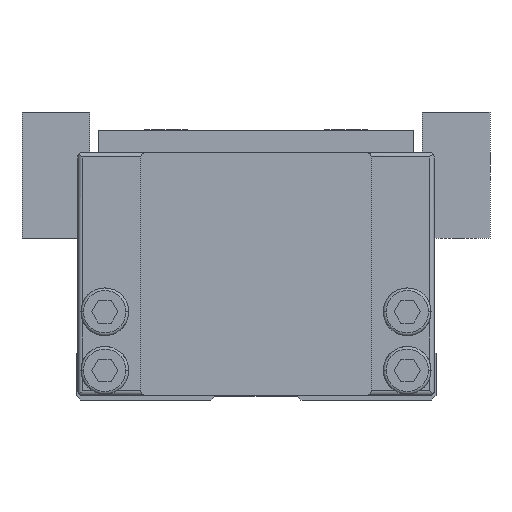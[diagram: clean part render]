
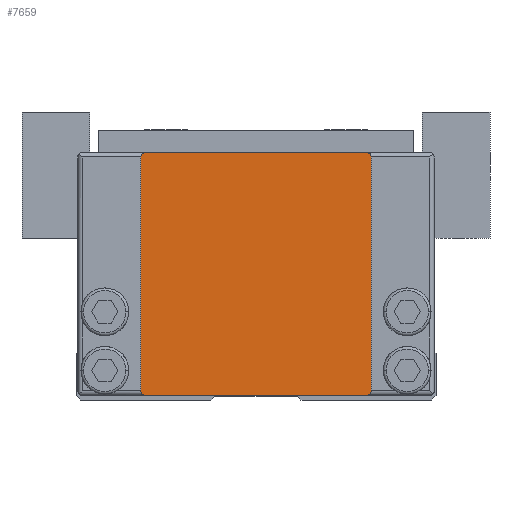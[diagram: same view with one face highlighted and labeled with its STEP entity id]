
A CAD part, front view. The second image highlights one B-rep face of the part: STEP entity #7659.
In plain terms, the highlighted planar face has unit normal (0, -1, 0).
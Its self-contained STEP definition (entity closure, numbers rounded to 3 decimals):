
#5089=VERTEX_POINT('',#14765);
#5399=EDGE_CURVE('',#13943,#11285,#15112,.T.);
#5915=EDGE_CURVE('',#11285,#10131,#15685,.T.);
#7659=ADVANCED_FACE('',(#17637),#17638,.T.);
#9233=EDGE_CURVE('',#11381,#13943,#19363,.T.);
#9303=EDGE_CURVE('',#11599,#11381,#19443,.T.);
#10131=VERTEX_POINT('',#20370);
#10355=VERTEX_POINT('',#20612);
#11285=VERTEX_POINT('',#21627);
#11381=VERTEX_POINT('',#21729);
#11599=VERTEX_POINT('',#21967);
#12187=EDGE_CURVE('',#12263,#10355,#22624,.T.);
#12263=VERTEX_POINT('',#22711);
#13281=EDGE_CURVE('',#10131,#5089,#23843,.T.);
#13289=EDGE_CURVE('',#10355,#11599,#23853,.T.);
#13943=VERTEX_POINT('',#24566);
#14477=EDGE_CURVE('',#5089,#12263,#25147,.T.);
#14765=CARTESIAN_POINT('',(12.8,0.0,1.0));
#15112=LINE('',#26105,#26106);
#15685=CIRCLE('',#26935,0.5);
#17637=FACE_OUTER_BOUND('',#29775,.T.);
#17638=PLANE('',#29776);
#19363=CIRCLE('',#32370,0.5);
#19443=LINE('',#32493,#32494);
#20370=CARTESIAN_POINT('',(12.8,0.0,27.0));
#20612=CARTESIAN_POINT('',(-12.3,0.0,0.5));
#21627=CARTESIAN_POINT('',(12.3,0.0,27.5));
#21729=CARTESIAN_POINT('',(-12.8,0.0,27.0));
#21967=CARTESIAN_POINT('',(-12.8,0.0,1.0));
#22624=LINE('',#37233,#37234);
#22711=CARTESIAN_POINT('',(12.3,0.0,0.5));
#23843=LINE('',#39131,#39132);
#23853=CIRCLE('',#39145,0.5);
#24566=CARTESIAN_POINT('',(-12.3,0.0,27.5));
#25147=CIRCLE('',#41085,0.5);
#26105=CARTESIAN_POINT('',(12.3,0.0,27.5));
#26106=VECTOR('',#41800,1.0);
#26935=AXIS2_PLACEMENT_3D('',#42504,#42505,#42506);
#29775=EDGE_LOOP('',(#44750,#44751,#44752,#44753,#44754,#44755,#44756,#44757));
#29776=AXIS2_PLACEMENT_3D('',#44758,#44759,#44760);
#32370=AXIS2_PLACEMENT_3D('',#46726,#46727,#46728);
#32493=CARTESIAN_POINT('',(-12.8,0.0,27.0));
#32494=VECTOR('',#46839,1.0);
#37233=CARTESIAN_POINT('',(-12.3,0.0,0.5));
#37234=VECTOR('',#50395,1.0);
#39131=CARTESIAN_POINT('',(12.8,0.0,1.0));
#39132=VECTOR('',#51877,1.0);
#39145=AXIS2_PLACEMENT_3D('',#51887,#51888,#51889);
#41085=AXIS2_PLACEMENT_3D('',#53265,#53266,#53267);
#41800=DIRECTION('',(1.0,0.0,0.0));
#42504=CARTESIAN_POINT('',(12.3,0.0,27.0));
#42505=DIRECTION('',(-0.0,1.0,0.0));
#42506=DIRECTION('',(1.0,0.0,0.));
#44750=ORIENTED_EDGE('',*,*,#9303,.F.);
#44751=ORIENTED_EDGE('',*,*,#13289,.F.);
#44752=ORIENTED_EDGE('',*,*,#12187,.F.);
#44753=ORIENTED_EDGE('',*,*,#14477,.F.);
#44754=ORIENTED_EDGE('',*,*,#13281,.F.);
#44755=ORIENTED_EDGE('',*,*,#5915,.F.);
#44756=ORIENTED_EDGE('',*,*,#5399,.F.);
#44757=ORIENTED_EDGE('',*,*,#9233,.F.);
#44758=CARTESIAN_POINT('',(0.,0.0,14.0));
#44759=DIRECTION('',(0.0,-1.0,0.0));
#44760=DIRECTION('',(1.0,0.0,0.0));
#46726=CARTESIAN_POINT('',(-12.3,0.0,27.0));
#46727=DIRECTION('',(0.0,1.0,-0.0));
#46728=DIRECTION('',(0.,0.0,1.0));
#46839=DIRECTION('',(0.0,0.0,1.0));
#50395=DIRECTION('',(-1.0,0.0,-0.0));
#51877=DIRECTION('',(-0.0,0.0,-1.0));
#51887=CARTESIAN_POINT('',(-12.3,0.0,1.));
#51888=DIRECTION('',(0.0,1.0,-0.0));
#51889=DIRECTION('',(-1.0,0.0,0.));
#53265=CARTESIAN_POINT('',(12.3,0.0,1.));
#53266=DIRECTION('',(-0.0,1.0,0.0));
#53267=DIRECTION('',(0.0,0.0,-1.0));
